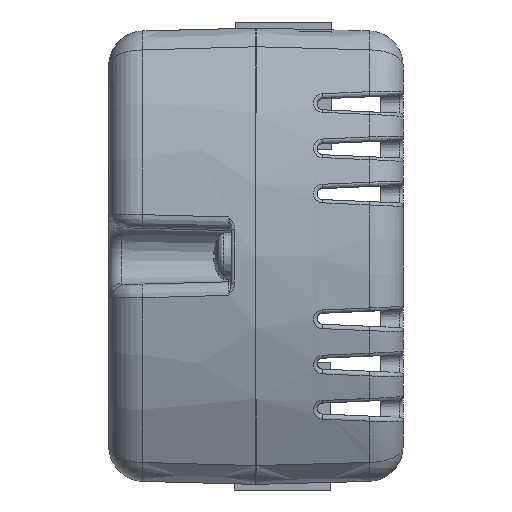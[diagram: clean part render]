
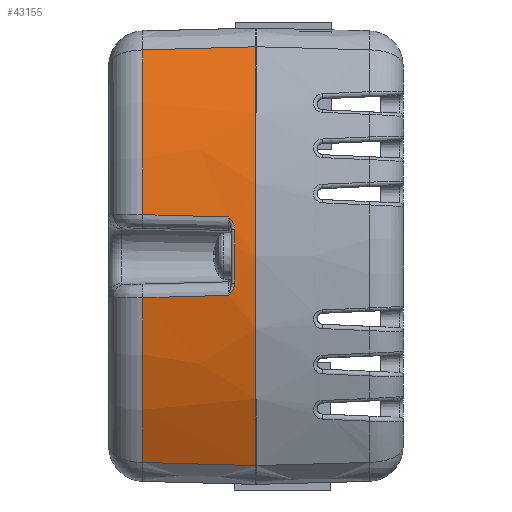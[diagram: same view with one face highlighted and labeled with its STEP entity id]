
A CAD part, left-side view. The second image highlights one B-rep face of the part: STEP entity #43155.
In plain terms, the highlighted conical face has half-angle 1.5 degrees and reference radius 36.429 mm.
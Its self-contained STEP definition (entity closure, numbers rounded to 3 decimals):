
#919=CONICAL_SURFACE('',#45719,36.429,0.026);
#1467=CIRCLE('',#45718,36.385);
#1468=CIRCLE('',#45720,36.192);
#1469=CIRCLE('',#45721,36.429);
#1470=CIRCLE('',#45722,36.192);
#2546=B_SPLINE_CURVE_WITH_KNOTS('',3,(#67183,#67184,#67185,#67186,#67187,
#67188,#67189,#67190),.UNSPECIFIED.,.F.,.F.,(4,2,1,1,4),(0.,
0.,0.044,0.066,0.11),
 .UNSPECIFIED.);
#2547=B_SPLINE_CURVE_WITH_KNOTS('',3,(#67228,#67229,#67230,#67231,#67232,
#67233),.UNSPECIFIED.,.F.,.F.,(4,2,4),(0.,0.11,0.111),
 .UNSPECIFIED.);
#2549=B_SPLINE_CURVE_WITH_KNOTS('',3,(#67242,#67243,#67244,#67245),
 .UNSPECIFIED.,.F.,.F.,(4,4),(-1.008,-0.32),
 .UNSPECIFIED.);
#2550=B_SPLINE_CURVE_WITH_KNOTS('',3,(#67249,#67250,#67251,#67252),
 .UNSPECIFIED.,.F.,.F.,(4,4),(-0.908,0.),.UNSPECIFIED.);
#2551=B_SPLINE_CURVE_WITH_KNOTS('',3,(#67256,#67257,#67258,#67259),
 .UNSPECIFIED.,.F.,.F.,(4,4),(-1.188,-0.28),
 .UNSPECIFIED.);
#2552=B_SPLINE_CURVE_WITH_KNOTS('',3,(#67262,#67263,#67264,#67265),
 .UNSPECIFIED.,.F.,.F.,(4,4),(-0.688,0.),.UNSPECIFIED.);
#4640=FACE_OUTER_BOUND('',#7065,.T.);
#7065=EDGE_LOOP('',(#32269,#32270,#32271,#32272,#32273,#32274,#32275,#32276,
#32277,#32278));
#18908=VERTEX_POINT('',#67171);
#18910=VERTEX_POINT('',#67174);
#18911=VERTEX_POINT('',#67192);
#18913=VERTEX_POINT('',#67227);
#18914=VERTEX_POINT('',#67241);
#18915=VERTEX_POINT('',#67246);
#18916=VERTEX_POINT('',#67248);
#18917=VERTEX_POINT('',#67253);
#18918=VERTEX_POINT('',#67255);
#18919=VERTEX_POINT('',#67260);
#23823=EDGE_CURVE('',#18910,#18908,#2546,.T.);
#23826=EDGE_CURVE('',#18908,#18911,#1467,.T.);
#23827=EDGE_CURVE('',#18911,#18913,#2547,.T.);
#23829=EDGE_CURVE('',#18914,#18910,#2549,.T.);
#23830=EDGE_CURVE('',#18915,#18914,#1468,.T.);
#23831=EDGE_CURVE('',#18916,#18915,#2550,.T.);
#23832=EDGE_CURVE('',#18917,#18916,#1469,.T.);
#23833=EDGE_CURVE('',#18918,#18917,#2551,.T.);
#23834=EDGE_CURVE('',#18919,#18918,#1470,.T.);
#23835=EDGE_CURVE('',#18913,#18919,#2552,.T.);
#32269=ORIENTED_EDGE('',*,*,#23827,.F.);
#32270=ORIENTED_EDGE('',*,*,#23826,.F.);
#32271=ORIENTED_EDGE('',*,*,#23823,.F.);
#32272=ORIENTED_EDGE('',*,*,#23829,.F.);
#32273=ORIENTED_EDGE('',*,*,#23830,.F.);
#32274=ORIENTED_EDGE('',*,*,#23831,.F.);
#32275=ORIENTED_EDGE('',*,*,#23832,.F.);
#32276=ORIENTED_EDGE('',*,*,#23833,.F.);
#32277=ORIENTED_EDGE('',*,*,#23834,.F.);
#32278=ORIENTED_EDGE('',*,*,#23835,.F.);
#43155=ADVANCED_FACE('',(#4640),#919,.T.);
#45718=AXIS2_PLACEMENT_3D('',#67196,#50124,#50125);
#45719=AXIS2_PLACEMENT_3D('',#67240,#50126,#50127);
#45720=AXIS2_PLACEMENT_3D('',#67247,#50128,#50129);
#45721=AXIS2_PLACEMENT_3D('',#67254,#50130,#50131);
#45722=AXIS2_PLACEMENT_3D('',#67261,#50132,#50133);
#50124=DIRECTION('center_axis',(0.,-1.,0.));
#50125=DIRECTION('ref_axis',(1.,0.,0.));
#50126=DIRECTION('center_axis',(0.,1.,0.));
#50127=DIRECTION('ref_axis',(0.868,0.,-0.497));
#50128=DIRECTION('center_axis',(0.,-1.,0.));
#50129=DIRECTION('ref_axis',(0.969,0.,-0.248));
#50130=DIRECTION('center_axis',(0.,1.,0.));
#50131=DIRECTION('ref_axis',(-0.868,0.,0.497));
#50132=DIRECTION('center_axis',(0.,-1.,0.));
#50133=DIRECTION('ref_axis',(0.969,0.,0.248));
#67171=CARTESIAN_POINT('',(24.025,10.092,-2.143));
#67174=CARTESIAN_POINT('',(23.94,9.605,-3.122));
#67183=CARTESIAN_POINT('Ctrl Pts',(23.94,9.605,-3.122));
#67184=CARTESIAN_POINT('Ctrl Pts',(23.941,9.606,-3.121));
#67185=CARTESIAN_POINT('Ctrl Pts',(23.941,9.607,-3.12));
#67186=CARTESIAN_POINT('Ctrl Pts',(23.953,9.702,-3.006));
#67187=CARTESIAN_POINT('Ctrl Pts',(23.971,9.846,-2.83));
#67188=CARTESIAN_POINT('Ctrl Pts',(24.,10.03,-2.51));
#67189=CARTESIAN_POINT('Ctrl Pts',(24.016,10.092,-2.291));
#67190=CARTESIAN_POINT('Ctrl Pts',(24.025,10.092,-2.143));
#67192=CARTESIAN_POINT('',(24.025,10.092,2.186));
#67196=CARTESIAN_POINT('Origin',(-12.295,10.092,0.022));
#67227=CARTESIAN_POINT('',(23.94,9.605,3.165));
#67228=CARTESIAN_POINT('Ctrl Pts',(24.025,10.092,2.186));
#67229=CARTESIAN_POINT('Ctrl Pts',(24.003,10.092,2.556));
#67230=CARTESIAN_POINT('Ctrl Pts',(23.971,9.843,2.882));
#67231=CARTESIAN_POINT('Ctrl Pts',(23.941,9.607,3.163));
#67232=CARTESIAN_POINT('Ctrl Pts',(23.941,9.606,3.164));
#67233=CARTESIAN_POINT('Ctrl Pts',(23.94,9.605,3.165));
#67240=CARTESIAN_POINT('Origin',(-12.295,11.8,0.022));
#67241=CARTESIAN_POINT('',(23.743,2.727,-3.308));
#67242=CARTESIAN_POINT('Ctrl Pts',(23.743,2.727,-3.308));
#67243=CARTESIAN_POINT('Ctrl Pts',(23.809,5.02,-3.246));
#67244=CARTESIAN_POINT('Ctrl Pts',(23.875,7.312,-3.184));
#67245=CARTESIAN_POINT('Ctrl Pts',(23.94,9.605,-3.122));
#67246=CARTESIAN_POINT('',(19.893,2.727,-16.523));
#67247=CARTESIAN_POINT('Origin',(-12.295,2.727,0.022));
#67248=CARTESIAN_POINT('',(20.033,11.8,-16.771));
#67249=CARTESIAN_POINT('Ctrl Pts',(20.033,11.8,-16.771));
#67250=CARTESIAN_POINT('Ctrl Pts',(19.986,8.776,-16.689));
#67251=CARTESIAN_POINT('Ctrl Pts',(19.94,5.751,-16.606));
#67252=CARTESIAN_POINT('Ctrl Pts',(19.893,2.727,-16.523));
#67253=CARTESIAN_POINT('',(20.033,11.8,16.815));
#67254=CARTESIAN_POINT('Origin',(-12.295,11.8,0.022));
#67255=CARTESIAN_POINT('',(19.893,2.727,16.566));
#67256=CARTESIAN_POINT('Ctrl Pts',(19.893,2.727,16.566));
#67257=CARTESIAN_POINT('Ctrl Pts',(19.94,5.751,16.649));
#67258=CARTESIAN_POINT('Ctrl Pts',(19.986,8.776,16.732));
#67259=CARTESIAN_POINT('Ctrl Pts',(20.033,11.8,16.815));
#67260=CARTESIAN_POINT('',(23.743,2.727,3.351));
#67261=CARTESIAN_POINT('Origin',(-12.295,2.727,0.022));
#67262=CARTESIAN_POINT('Ctrl Pts',(23.94,9.605,3.165));
#67263=CARTESIAN_POINT('Ctrl Pts',(23.875,7.312,3.227));
#67264=CARTESIAN_POINT('Ctrl Pts',(23.809,5.02,3.289));
#67265=CARTESIAN_POINT('Ctrl Pts',(23.743,2.727,3.351));
